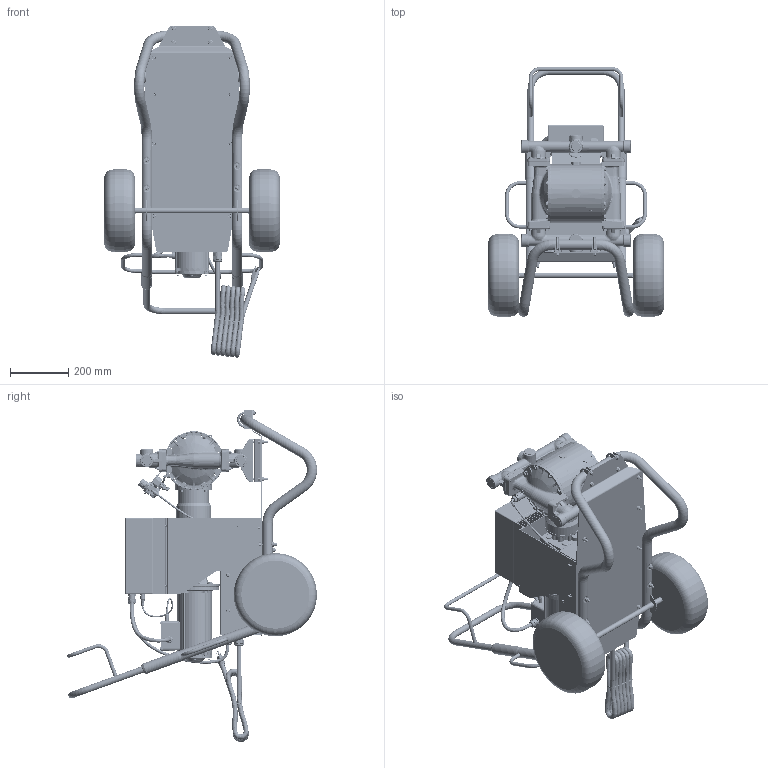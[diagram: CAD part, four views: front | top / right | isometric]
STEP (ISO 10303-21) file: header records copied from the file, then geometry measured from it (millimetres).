
FILE_DESCRIPTION((''),'2;1');
FILE_NAME('24Y388-EN-E_PRT','2019-12-31T18:45:36',('qusrh3'),(''),'CREO PARAMETRIC BY PTC INC, 2019030','CREO PARAMETRIC BY PTC INC, 2019030','');
FILE_SCHEMA(('CONFIG_CONTROL_DESIGN'));
Products named in the file (1): 24Y388-EN-E_PRT
Bounding box: 599.9 x 855.31 x 1135.84 mm (x, y, z)
Surface area: 4149454.5 mm2 (no closed solid volume)
Topology: 0 solids, 1543 shells, 10826 faces, 31489 edges, 20616 vertices
Faces by surface type: plane 4242, cylinder 2254, extrusion 1391, cone 957, bspline 816, sphere 625, torus 541
Entity records: 570949 total; most frequent: CARTESIAN_POINT 315632, DIRECTION 48880, ORIENTED_EDGE 46802, EDGE_CURVE 30971, VERTEX_POINT 20618, VECTOR 16746, AXIS2_PLACEMENT_3D 16067, LINE 15355
